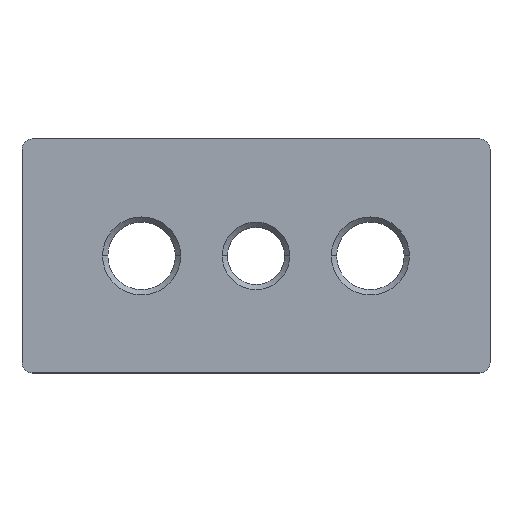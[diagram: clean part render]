
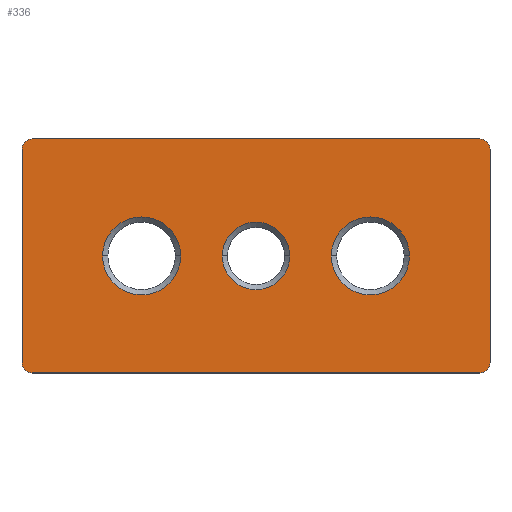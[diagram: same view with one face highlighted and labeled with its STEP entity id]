
A CAD part, top view. The second image highlights one B-rep face of the part: STEP entity #336.
In plain terms, the highlighted planar face has unit normal (0, 0, 1).
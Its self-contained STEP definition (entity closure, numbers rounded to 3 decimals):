
#8 = EDGE_CURVE ( 'NONE', #213, #898, #43, .T. ) ;
#21 = AXIS2_PLACEMENT_3D ( 'NONE', #164, #695, #199 ) ;
#24 = CARTESIAN_POINT ( 'NONE',  ( 48.881, -28.682, 18. ) ) ;
#28 = AXIS2_PLACEMENT_3D ( 'NONE', #835, #749, #283 ) ;
#36 = ORIENTED_EDGE ( 'NONE', *, *, #309, .T. ) ;
#43 = CIRCLE ( 'NONE', #28, 6.5 ) ;
#49 = CARTESIAN_POINT ( 'NONE',  ( 20.381, -8.182, 18. ) ) ;
#64 = AXIS2_PLACEMENT_3D ( 'NONE', #902, #435, #978 ) ;
#94 = DIRECTION ( 'NONE',  ( 1., 0., 0. ) ) ;
#99 = AXIS2_PLACEMENT_3D ( 'NONE', #166, #745, #254 ) ;
#104 = DIRECTION ( 'NONE',  ( 1., 0., 0. ) ) ;
#118 = ORIENTED_EDGE ( 'NONE', *, *, #399, .T. ) ;
#133 = CIRCLE ( 'NONE', #99, 6.5 ) ;
#137 = AXIS2_PLACEMENT_3D ( 'NONE', #974, #511, #1052 ) ;
#153 = VECTOR ( 'NONE', #683, 1000. ) ;
#160 = CARTESIAN_POINT ( 'NONE',  ( 27.881, -8.182, 18. ) ) ;
#164 = CARTESIAN_POINT ( 'NONE',  ( -37.119, 12.318, 18. ) ) ;
#166 = CARTESIAN_POINT ( 'NONE',  ( 5.881, -8.182, 18. ) ) ;
#186 = VERTEX_POINT ( 'NONE', #903 ) ;
#188 = EDGE_CURVE ( 'NONE', #452, #852, #630, .T. ) ;
#194 = EDGE_CURVE ( 'NONE', #925, #999, #394, .T. ) ;
#196 = FACE_BOUND ( 'NONE', #385, .T. ) ;
#199 = DIRECTION ( 'NONE',  ( 1., 0., 0. ) ) ;
#213 = VERTEX_POINT ( 'NONE', #986 ) ;
#221 = DIRECTION ( 'NONE',  ( 1., 0., 0. ) ) ;
#225 = PLANE ( 'NONE',  #404 ) ;
#226 = VECTOR ( 'NONE', #414, 1000. ) ;
#231 = CARTESIAN_POINT ( 'NONE',  ( -23.619, -8.182, 18. ) ) ;
#233 = CARTESIAN_POINT ( 'NONE',  ( 50.881, 12.318, 18. ) ) ;
#235 = CARTESIAN_POINT ( 'NONE',  ( 50.881, 14.318, 18. ) ) ;
#247 = AXIS2_PLACEMENT_3D ( 'NONE', #160, #738, #248 ) ;
#248 = DIRECTION ( 'NONE',  ( 1., 0., 0. ) ) ;
#254 = DIRECTION ( 'NONE',  ( 1., 0., 0. ) ) ;
#276 = ORIENTED_EDGE ( 'NONE', *, *, #368, .T. ) ;
#282 = AXIS2_PLACEMENT_3D ( 'NONE', #889, #420, #961 ) ;
#283 = DIRECTION ( 'NONE',  ( 1., 0., 0. ) ) ;
#304 = DIRECTION ( 'NONE',  ( 0., 0., 1. ) ) ;
#308 = CARTESIAN_POINT ( 'NONE',  ( 0., 0., 18. ) ) ;
#309 = EDGE_CURVE ( 'NONE', #876, #507, #1057, .T. ) ;
#312 = CARTESIAN_POINT ( 'NONE',  ( -37.119, -30.682, 18. ) ) ;
#314 = ORIENTED_EDGE ( 'NONE', *, *, #469, .T. ) ;
#331 = CARTESIAN_POINT ( 'NONE',  ( -8.619, -8.182, 18. ) ) ;
#336 = ADVANCED_FACE ( 'NONE', ( #438, #196, #457, #1031 ), #225, .T. ) ;
#348 = VECTOR ( 'NONE', #566, 1000. ) ;
#356 = ORIENTED_EDGE ( 'NONE', *, *, #475, .T. ) ;
#368 = EDGE_CURVE ( 'NONE', #971, #897, #568, .T. ) ;
#371 = CARTESIAN_POINT ( 'NONE',  ( -16.119, -8.182, 18. ) ) ;
#372 = CIRCLE ( 'NONE', #769, 2. ) ;
#375 = CARTESIAN_POINT ( 'NONE',  ( -37.119, -28.682, 18. ) ) ;
#385 = EDGE_LOOP ( 'NONE', ( #853, #693 ) ) ;
#394 = LINE ( 'NONE', #670, #153 ) ;
#399 = EDGE_CURVE ( 'NONE', #867, #767, #456, .T. ) ;
#404 = AXIS2_PLACEMENT_3D ( 'NONE', #308, #304, #947 ) ;
#414 = DIRECTION ( 'NONE',  ( -1., 0., 0. ) ) ;
#420 = DIRECTION ( 'NONE',  ( 0., 0., -1. ) ) ;
#425 = EDGE_CURVE ( 'NONE', #186, #895, #848, .T. ) ;
#435 = DIRECTION ( 'NONE',  ( 0., 0., 1. ) ) ;
#438 = FACE_BOUND ( 'NONE', #768, .T. ) ;
#444 = EDGE_CURVE ( 'NONE', #895, #186, #1056, .T. ) ;
#446 = AXIS2_PLACEMENT_3D ( 'NONE', #24, #618, #104 ) ;
#450 = EDGE_CURVE ( 'NONE', #852, #452, #984, .T. ) ;
#452 = VERTEX_POINT ( 'NONE', #331 ) ;
#456 = LINE ( 'NONE', #494, #226 ) ;
#457 = FACE_BOUND ( 'NONE', #790, .T. ) ;
#462 = EDGE_CURVE ( 'NONE', #898, #213, #133, .T. ) ;
#463 = DIRECTION ( 'NONE',  ( 0., 0., -1. ) ) ;
#464 = DIRECTION ( 'NONE',  ( 1., 0., 0. ) ) ;
#467 = ORIENTED_EDGE ( 'NONE', *, *, #194, .T. ) ;
#469 = EDGE_CURVE ( 'NONE', #897, #867, #595, .T. ) ;
#470 = CARTESIAN_POINT ( 'NONE',  ( 48.881, -30.682, 18. ) ) ;
#475 = EDGE_CURVE ( 'NONE', #767, #925, #772, .T. ) ;
#481 = EDGE_CURVE ( 'NONE', #999, #876, #372, .T. ) ;
#489 = EDGE_CURVE ( 'NONE', #507, #971, #567, .T. ) ;
#493 = CARTESIAN_POINT ( 'NONE',  ( -39.119, 12.318, 18. ) ) ;
#494 = CARTESIAN_POINT ( 'NONE',  ( -39.119, 14.318, 18. ) ) ;
#507 = VERTEX_POINT ( 'NONE', #470 ) ;
#511 = DIRECTION ( 'NONE',  ( 0., 0., -1. ) ) ;
#556 = CARTESIAN_POINT ( 'NONE',  ( -37.119, 14.318, 18. ) ) ;
#562 = ORIENTED_EDGE ( 'NONE', *, *, #444, .T. ) ;
#566 = DIRECTION ( 'NONE',  ( 0., 1., 0. ) ) ;
#567 = CIRCLE ( 'NONE', #446, 2. ) ;
#568 = LINE ( 'NONE', #235, #348 ) ;
#595 = CIRCLE ( 'NONE', #64, 2. ) ;
#618 = DIRECTION ( 'NONE',  ( 0., 0., 1. ) ) ;
#624 = ORIENTED_EDGE ( 'NONE', *, *, #8, .T. ) ;
#630 = CIRCLE ( 'NONE', #770, 7.5 ) ;
#670 = CARTESIAN_POINT ( 'NONE',  ( -39.119, 14.318, 18. ) ) ;
#674 = ORIENTED_EDGE ( 'NONE', *, *, #489, .T. ) ;
#683 = DIRECTION ( 'NONE',  ( 0., -1., 0. ) ) ;
#693 = ORIENTED_EDGE ( 'NONE', *, *, #450, .T. ) ;
#695 = DIRECTION ( 'NONE',  ( 0., 0., 1. ) ) ;
#738 = DIRECTION ( 'NONE',  ( 0., 0., -1. ) ) ;
#745 = DIRECTION ( 'NONE',  ( 0., 0., -1. ) ) ;
#747 = ORIENTED_EDGE ( 'NONE', *, *, #481, .T. ) ;
#749 = DIRECTION ( 'NONE',  ( 0., 0., -1. ) ) ;
#767 = VERTEX_POINT ( 'NONE', #556 ) ;
#768 = EDGE_LOOP ( 'NONE', ( #991, #562 ) ) ;
#769 = AXIS2_PLACEMENT_3D ( 'NONE', #375, #928, #464 ) ;
#770 = AXIS2_PLACEMENT_3D ( 'NONE', #371, #463, #94 ) ;
#772 = CIRCLE ( 'NONE', #21, 2. ) ;
#790 = EDGE_LOOP ( 'NONE', ( #624, #994 ) ) ;
#800 = CARTESIAN_POINT ( 'NONE',  ( 48.881, 14.318, 18. ) ) ;
#804 = CARTESIAN_POINT ( 'NONE',  ( -0.619, -8.182, 18. ) ) ;
#813 = CARTESIAN_POINT ( 'NONE',  ( -39.119, -28.682, 18. ) ) ;
#835 = CARTESIAN_POINT ( 'NONE',  ( 5.881, -8.182, 18. ) ) ;
#848 = CIRCLE ( 'NONE', #282, 7.5 ) ;
#849 = VECTOR ( 'NONE', #221, 1000. ) ;
#852 = VERTEX_POINT ( 'NONE', #231 ) ;
#853 = ORIENTED_EDGE ( 'NONE', *, *, #188, .T. ) ;
#867 = VERTEX_POINT ( 'NONE', #800 ) ;
#876 = VERTEX_POINT ( 'NONE', #312 ) ;
#889 = CARTESIAN_POINT ( 'NONE',  ( 27.881, -8.182, 18. ) ) ;
#895 = VERTEX_POINT ( 'NONE', #49 ) ;
#897 = VERTEX_POINT ( 'NONE', #233 ) ;
#898 = VERTEX_POINT ( 'NONE', #804 ) ;
#902 = CARTESIAN_POINT ( 'NONE',  ( 48.881, 12.318, 18. ) ) ;
#903 = CARTESIAN_POINT ( 'NONE',  ( 35.381, -8.182, 18. ) ) ;
#925 = VERTEX_POINT ( 'NONE', #493 ) ;
#928 = DIRECTION ( 'NONE',  ( 0., 0., 1. ) ) ;
#941 = CARTESIAN_POINT ( 'NONE',  ( -39.119, -30.682, 18. ) ) ;
#947 = DIRECTION ( 'NONE',  ( 1., 0., 0. ) ) ;
#956 = CARTESIAN_POINT ( 'NONE',  ( 50.881, -28.682, 18. ) ) ;
#961 = DIRECTION ( 'NONE',  ( 1., 0., 0. ) ) ;
#971 = VERTEX_POINT ( 'NONE', #956 ) ;
#974 = CARTESIAN_POINT ( 'NONE',  ( -16.119, -8.182, 18. ) ) ;
#978 = DIRECTION ( 'NONE',  ( 1., 0., 0. ) ) ;
#984 = CIRCLE ( 'NONE', #137, 7.5 ) ;
#986 = CARTESIAN_POINT ( 'NONE',  ( 12.381, -8.182, 18. ) ) ;
#991 = ORIENTED_EDGE ( 'NONE', *, *, #425, .T. ) ;
#994 = ORIENTED_EDGE ( 'NONE', *, *, #462, .T. ) ;
#999 = VERTEX_POINT ( 'NONE', #813 ) ;
#1000 = EDGE_LOOP ( 'NONE', ( #276, #314, #118, #356, #467, #747, #36, #674 ) ) ;
#1031 = FACE_OUTER_BOUND ( 'NONE', #1000, .T. ) ;
#1052 = DIRECTION ( 'NONE',  ( 1., 0., 0. ) ) ;
#1056 = CIRCLE ( 'NONE', #247, 7.5 ) ;
#1057 = LINE ( 'NONE', #941, #849 ) ;
